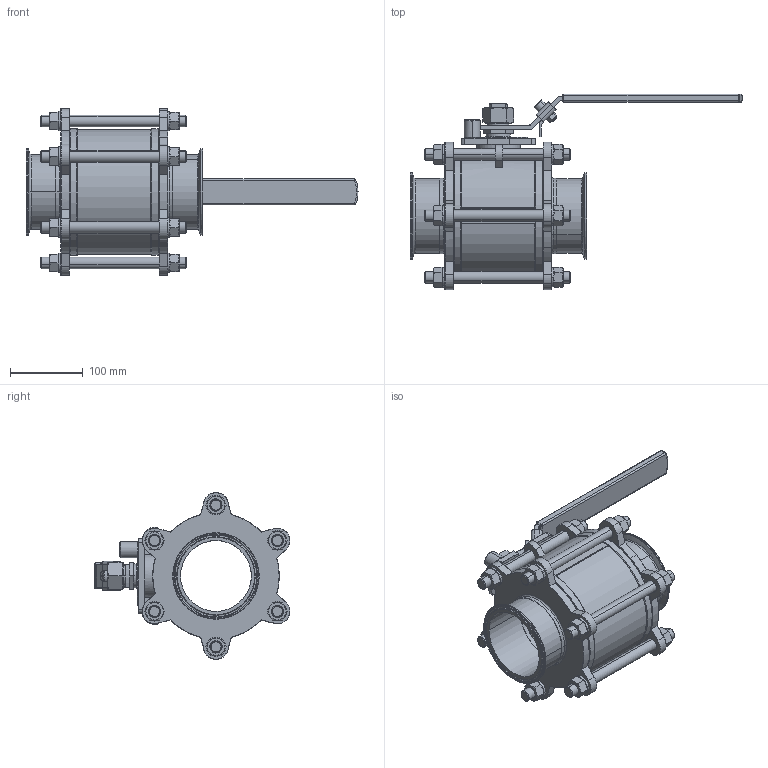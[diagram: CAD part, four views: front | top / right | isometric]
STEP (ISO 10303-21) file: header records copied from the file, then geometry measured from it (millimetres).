
FILE_DESCRIPTION (( 'STEP AP203' ), '1' );
FILE_NAME ('BAV-C-4.0.STEP', '2019-06-17T05:47:10', ( '' ), ( '' ), 'SwSTEP 2.0', 'SolidWorks 2014', '' );
FILE_SCHEMA (( 'CONFIG_CONTROL_DESIGN' ));
Length unit declared in the file: millimetre
Products named in the file (21): 2WAY-GASKET-4.0; 2WAY-STEM-4.0; 2WAY-STOP PIN-4.0; 2WAY-SEAT-4.0; 2WAY-HANDLE-4.0-2; 2WAY-BOLT WASHERS-4.0; 2WAY-BODY-4.0; 2WAY-HANDLE-4.0; 2WAY-THRUST WASHER-4.0; 2WAY-BALL-4.0; 2WAY-HANDLE-4.0-3; BAV-C-4.0; 2WAY-CAP-C-4.0; 2WAY-HANDLE WASHERS-4.0; 2WAY-STEM PACKINGS-4.0; 2WAY-BOLT-4.0; 2WAY-BOLT NUT-4.0; 2WAY-HANDLE-4.0-1; 2WAY-HANDLE-4.0-3-1; 2WAY-HANDLE NUT-4.0; 2WAY-GLAND-4.0
Assembly tree (50 placements, depth 2):
  BAV-C-4.0
    2WAY-BODY-4.0
    2WAY-STEM-4.0
    2WAY-THRUST WASHER-4.0
    2WAY-BALL-4.0
    2WAY-SEAT-4.0  x2
    2WAY-GASKET-4.0  x2
    2WAY-GLAND-4.0
    2WAY-STEM PACKINGS-4.0
    2WAY-CAP-C-4.0  x2
    2WAY-HANDLE NUT-4.0
    2WAY-HANDLE WASHERS-4.0
    2WAY-HANDLE-4.0
    2WAY-HANDLE-4.0-1
    2WAY-HANDLE-4.0-2
    2WAY-HANDLE-4.0-3
    2WAY-HANDLE-4.0-3-1
    2WAY-STOP PIN-4.0
    2WAY-BOLT-4.0  x6
    2WAY-BOLT NUT-4.0  x12
    2WAY-BOLT WASHERS-4.0  x12
Bounding box: 456.31 x 268.76 x 229 mm (x, y, z)
Volume: 3103836.2 mm3; surface area: 783105.4 mm2
Topology: 50 solids, 50 shells, 1285 faces, 2939 edges, 1753 vertices
Faces by surface type: cylinder 466, plane 328, cone 227, torus 195, sphere 39, bspline 30
Entity records: 27582 total; most frequent: CARTESIAN_POINT 6292, DIRECTION 4206, ORIENTED_EDGE 3594, EDGE_CURVE 1797, AXIS2_PLACEMENT_3D 1774, VERTEX_POINT 1057, CIRCLE 956, EDGE_LOOP 872
